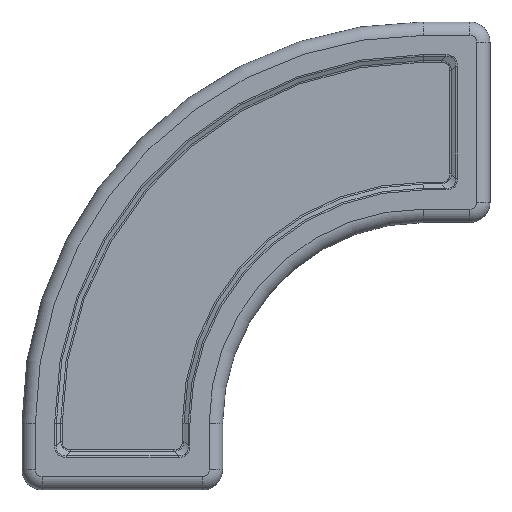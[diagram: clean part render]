
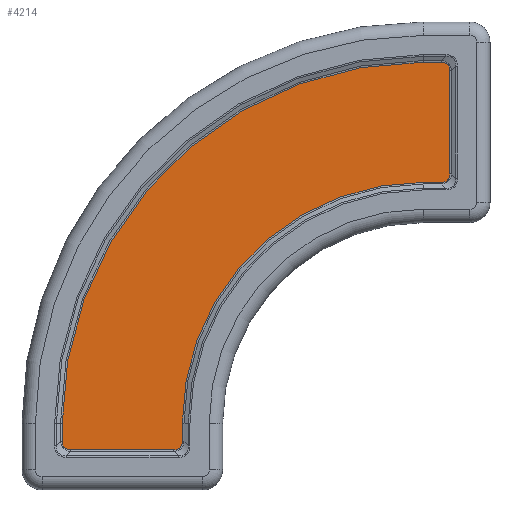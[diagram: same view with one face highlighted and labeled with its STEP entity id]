
A CAD part, top view. The second image highlights one B-rep face of the part: STEP entity #4214.
In plain terms, the highlighted planar face has unit normal (0, 0, 1).
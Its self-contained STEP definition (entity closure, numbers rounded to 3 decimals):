
#10 = LINE ( 'NONE', #4988, #2415 ) ;
#68 = ORIENTED_EDGE ( 'NONE', *, *, #8922, .T. ) ;
#251 = CARTESIAN_POINT ( 'NONE',  ( -37.266, -3.984, 2.5 ) ) ;
#294 = CARTESIAN_POINT ( 'NONE',  ( -36.016, -2.734, 2.5 ) ) ;
#308 = EDGE_CURVE ( 'NONE', #1280, #4049, #11060, .T. ) ;
#342 = CARTESIAN_POINT ( 'NONE',  ( -53.984, -2.734, 2.5 ) ) ;
#578 = DIRECTION ( 'NONE',  ( -1., 0., 0. ) ) ;
#750 = VERTEX_POINT ( 'NONE', #8496 ) ;
#890 = ORIENTED_EDGE ( 'NONE', *, *, #3439, .T. ) ;
#1003 = CARTESIAN_POINT ( 'NONE',  ( 0., 36.016, 2.5 ) ) ;
#1080 = FACE_OUTER_BOUND ( 'NONE', #9189, .T. ) ;
#1280 = VERTEX_POINT ( 'NONE', #7051 ) ;
#1320 = DIRECTION ( 'NONE',  ( 1., 0., 0. ) ) ;
#1439 = VERTEX_POINT ( 'NONE', #2677 ) ;
#1444 = CARTESIAN_POINT ( 'NONE',  ( -36.016, 0., 2.5 ) ) ;
#1517 = ORIENTED_EDGE ( 'NONE', *, *, #7832, .T. ) ;
#1646 = EDGE_CURVE ( 'NONE', #750, #1280, #9710, .T. ) ;
#1928 = CARTESIAN_POINT ( 'NONE',  ( 0., 0., 2.5 ) ) ;
#2051 = LINE ( 'NONE', #3985, #6358 ) ;
#2176 = ORIENTED_EDGE ( 'NONE', *, *, #11178, .T. ) ;
#2351 = LINE ( 'NONE', #7572, #2640 ) ;
#2402 = CARTESIAN_POINT ( 'NONE',  ( 2.734, 53.984, 2.5 ) ) ;
#2415 = VECTOR ( 'NONE', #8705, 1000. ) ;
#2447 = CARTESIAN_POINT ( 'NONE',  ( -52.734, -3.984, 2.5 ) ) ;
#2524 = CARTESIAN_POINT ( 'NONE',  ( 3.984, 53.549, 2.5 ) ) ;
#2613 = ORIENTED_EDGE ( 'NONE', *, *, #7339, .T. ) ;
#2636 = CARTESIAN_POINT ( 'NONE',  ( 2.734, 53.984, 2.5 ) ) ;
#2640 = VECTOR ( 'NONE', #4117, 1000. ) ;
#2677 = CARTESIAN_POINT ( 'NONE',  ( -53.984, -2.734, 2.5 ) ) ;
#3021 = EDGE_CURVE ( 'NONE', #7297, #5713, #11050, .T. ) ;
#3090 = VECTOR ( 'NONE', #11147, 1000. ) ;
#3123 = CARTESIAN_POINT ( 'NONE',  ( -37.266, -3.984, 2.5 ) ) ;
#3128 = AXIS2_PLACEMENT_3D ( 'NONE', #11688, #7945, #6235 ) ;
#3167 = CARTESIAN_POINT ( 'NONE',  ( 3.984, 37.266, 2.5 ) ) ;
#3258 =( BOUNDED_CURVE ( )  B_SPLINE_CURVE ( 3, ( #251, #4072, #6785, #294 ),
 .UNSPECIFIED., .F., .T. ) 
 B_SPLINE_CURVE_WITH_KNOTS ( ( 4, 4 ),
 ( 2.78, 3.503 ),
 .UNSPECIFIED. ) 
 CURVE ( )  GEOMETRIC_REPRESENTATION_ITEM ( )  RATIONAL_B_SPLINE_CURVE ( ( 1., 0.957, 0.957, 1. ) ) 
 REPRESENTATION_ITEM ( '' )  );
#3305 = CARTESIAN_POINT ( 'NONE',  ( 3.984, 37.266, 2.5 ) ) ;
#3439 = EDGE_CURVE ( 'NONE', #3563, #11315, #10, .T. ) ;
#3563 = VERTEX_POINT ( 'NONE', #2447 ) ;
#3930 =( BOUNDED_CURVE ( )  B_SPLINE_CURVE ( 3, ( #342, #6142, #6013, #9750 ),
 .UNSPECIFIED., .F., .F. ) 
 B_SPLINE_CURVE_WITH_KNOTS ( ( 4, 4 ),
 ( 2.78, 3.503 ),
 .UNSPECIFIED. ) 
 CURVE ( )  GEOMETRIC_REPRESENTATION_ITEM ( )  RATIONAL_B_SPLINE_CURVE ( ( 1., 0.957, 0.957, 1. ) ) 
 REPRESENTATION_ITEM ( '' )  );
#3985 = CARTESIAN_POINT ( 'NONE',  ( 0., 53.984, 2.5 ) ) ;
#4049 = VERTEX_POINT ( 'NONE', #1003 ) ;
#4072 = CARTESIAN_POINT ( 'NONE',  ( -36.451, -3.984, 2.5 ) ) ;
#4094 = CARTESIAN_POINT ( 'NONE',  ( 0., 53.984, 2.5 ) ) ;
#4117 = DIRECTION ( 'NONE',  ( 0., -1., 0. ) ) ;
#4143 = VECTOR ( 'NONE', #5969, 1000. ) ;
#4214 = ADVANCED_FACE ( 'NONE', ( #1080 ), #6842, .T. ) ;
#4324 = CARTESIAN_POINT ( 'NONE',  ( 3.984, 52.734, 2.5 ) ) ;
#4534 = CARTESIAN_POINT ( 'NONE',  ( -53.984, 0., 2.5 ) ) ;
#4620 = DIRECTION ( 'NONE',  ( 1., 0., 0. ) ) ;
#4825 = AXIS2_PLACEMENT_3D ( 'NONE', #11544, #9570, #1320 ) ;
#4876 = CARTESIAN_POINT ( 'NONE',  ( 3.984, 52.734, 2.5 ) ) ;
#4894 = ORIENTED_EDGE ( 'NONE', *, *, #1646, .T. ) ;
#4953 = EDGE_CURVE ( 'NONE', #11611, #1439, #2351, .T. ) ;
#4954 = CARTESIAN_POINT ( 'NONE',  ( 2.734, 36.016, 2.5 ) ) ;
#4988 = CARTESIAN_POINT ( 'NONE',  ( 0., -3.984, 2.5 ) ) ;
#5713 = VERTEX_POINT ( 'NONE', #2402 ) ;
#5719 = CIRCLE ( 'NONE', #8017, 53.984 ) ;
#5839 = CARTESIAN_POINT ( 'NONE',  ( 3.549, 36.016, 2.5 ) ) ;
#5969 = DIRECTION ( 'NONE',  ( 0., 1., 0. ) ) ;
#6013 = CARTESIAN_POINT ( 'NONE',  ( -53.549, -3.984, 2.5 ) ) ;
#6142 = CARTESIAN_POINT ( 'NONE',  ( -53.984, -3.549, 2.5 ) ) ;
#6235 = DIRECTION ( 'NONE',  ( 1., 0., 0. ) ) ;
#6358 = VECTOR ( 'NONE', #578, 1000. ) ;
#6482 = ORIENTED_EDGE ( 'NONE', *, *, #7929, .T. ) ;
#6503 = DIRECTION ( 'NONE',  ( 0., 0., 1. ) ) ;
#6785 = CARTESIAN_POINT ( 'NONE',  ( -36.016, -3.549, 2.5 ) ) ;
#6842 = PLANE ( 'NONE',  #4825 ) ;
#6872 = CARTESIAN_POINT ( 'NONE',  ( 3.984, 0., 2.5 ) ) ;
#7021 = CARTESIAN_POINT ( 'NONE',  ( 2.734, 36.016, 2.5 ) ) ;
#7051 = CARTESIAN_POINT ( 'NONE',  ( -36.016, 0., 2.5 ) ) ;
#7064 = CARTESIAN_POINT ( 'NONE',  ( 3.549, 53.984, 2.5 ) ) ;
#7120 = VERTEX_POINT ( 'NONE', #7021 ) ;
#7297 = VERTEX_POINT ( 'NONE', #4876 ) ;
#7339 = EDGE_CURVE ( 'NONE', #1439, #3563, #3930, .T. ) ;
#7370 = VERTEX_POINT ( 'NONE', #3305 ) ;
#7443 = CARTESIAN_POINT ( 'NONE',  ( 0., 36.016, 2.5 ) ) ;
#7572 = CARTESIAN_POINT ( 'NONE',  ( -53.984, 0., 2.5 ) ) ;
#7742 = ORIENTED_EDGE ( 'NONE', *, *, #4953, .T. ) ;
#7832 = EDGE_CURVE ( 'NONE', #4049, #7120, #11397, .T. ) ;
#7929 = EDGE_CURVE ( 'NONE', #7120, #7370, #11564, .T. ) ;
#7945 = DIRECTION ( 'NONE',  ( 0., 0., -1. ) ) ;
#8017 = AXIS2_PLACEMENT_3D ( 'NONE', #1928, #6503, #4620 ) ;
#8446 = LINE ( 'NONE', #6872, #11619 ) ;
#8496 = CARTESIAN_POINT ( 'NONE',  ( -36.016, -2.734, 2.5 ) ) ;
#8619 = CARTESIAN_POINT ( 'NONE',  ( 3.984, 36.451, 2.5 ) ) ;
#8705 = DIRECTION ( 'NONE',  ( 1., 0., 0. ) ) ;
#8922 = EDGE_CURVE ( 'NONE', #11315, #750, #3258, .T. ) ;
#8928 = EDGE_CURVE ( 'NONE', #5713, #11381, #2051, .T. ) ;
#9023 = ORIENTED_EDGE ( 'NONE', *, *, #3021, .T. ) ;
#9189 = EDGE_LOOP ( 'NONE', ( #9023, #11055, #2176, #7742, #2613, #890, #68, #4894, #11038, #1517, #6482, #10016 ) ) ;
#9570 = DIRECTION ( 'NONE',  ( 0., 0., 1. ) ) ;
#9648 = DIRECTION ( 'NONE',  ( 0., 1., 0. ) ) ;
#9710 = LINE ( 'NONE', #1444, #4143 ) ;
#9750 = CARTESIAN_POINT ( 'NONE',  ( -52.734, -3.984, 2.5 ) ) ;
#10016 = ORIENTED_EDGE ( 'NONE', *, *, #11478, .T. ) ;
#11038 = ORIENTED_EDGE ( 'NONE', *, *, #308, .T. ) ;
#11050 =( BOUNDED_CURVE ( )  B_SPLINE_CURVE ( 3, ( #4324, #2524, #7064, #2636 ),
 .UNSPECIFIED., .F., .F. ) 
 B_SPLINE_CURVE_WITH_KNOTS ( ( 4, 4 ),
 ( 2.78, 3.503 ),
 .UNSPECIFIED. ) 
 CURVE ( )  GEOMETRIC_REPRESENTATION_ITEM ( )  RATIONAL_B_SPLINE_CURVE ( ( 1., 0.957, 0.957, 1. ) ) 
 REPRESENTATION_ITEM ( '' )  );
#11055 = ORIENTED_EDGE ( 'NONE', *, *, #8928, .T. ) ;
#11060 = CIRCLE ( 'NONE', #3128, 36.016 ) ;
#11147 = DIRECTION ( 'NONE',  ( 1., 0., 0. ) ) ;
#11178 = EDGE_CURVE ( 'NONE', #11381, #11611, #5719, .T. ) ;
#11315 = VERTEX_POINT ( 'NONE', #3123 ) ;
#11381 = VERTEX_POINT ( 'NONE', #4094 ) ;
#11397 = LINE ( 'NONE', #7443, #3090 ) ;
#11478 = EDGE_CURVE ( 'NONE', #7370, #7297, #8446, .T. ) ;
#11544 = CARTESIAN_POINT ( 'NONE',  ( 0., 0., 2.5 ) ) ;
#11564 =( BOUNDED_CURVE ( )  B_SPLINE_CURVE ( 3, ( #4954, #5839, #8619, #3167 ),
 .UNSPECIFIED., .F., .F. ) 
 B_SPLINE_CURVE_WITH_KNOTS ( ( 4, 4 ),
 ( 2.78, 3.503 ),
 .UNSPECIFIED. ) 
 CURVE ( )  GEOMETRIC_REPRESENTATION_ITEM ( )  RATIONAL_B_SPLINE_CURVE ( ( 1., 0.957, 0.957, 1. ) ) 
 REPRESENTATION_ITEM ( '' )  );
#11611 = VERTEX_POINT ( 'NONE', #4534 ) ;
#11619 = VECTOR ( 'NONE', #9648, 1000. ) ;
#11688 = CARTESIAN_POINT ( 'NONE',  ( 0., 0., 2.5 ) ) ;
